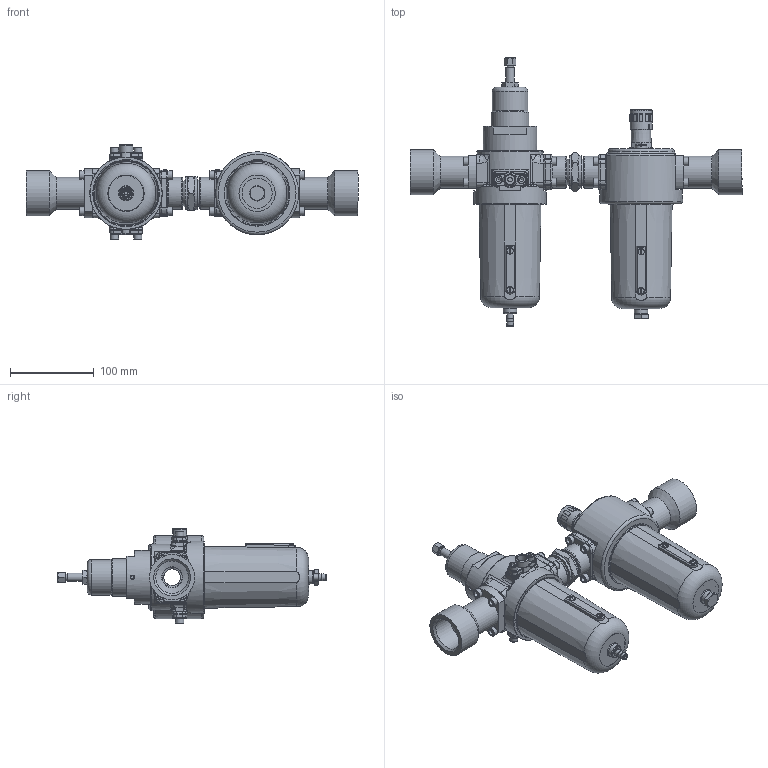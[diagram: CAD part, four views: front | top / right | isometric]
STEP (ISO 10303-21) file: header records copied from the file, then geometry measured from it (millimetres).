
FILE_DESCRIPTION(/* description */ (''),/* implementation_level */ '2;1');
FILE_NAME(/* name */ '210G2 1-14''''G.stp',/* time_stamp */ '2025-05-14T10:09:44+02:00',/* author */ ('MassimoRatti'),/* organization */ (''),/* preprocessor_version */ 'ST-DEVELOPER v20',/* originating_system */ 'Autodesk Inventor 2025',/* authorisation */ '');
FILE_SCHEMA (('AUTOMOTIVE_DESIGN { 1 0 10303 214 3 1 1 }'));
Length unit declared in the file: millimetre
Products named in the file (47): 210G2 1-14''G; C87002; P53003; OR 02014; P53003_1; P30017; C60002; P60001; P60002; M51201; P60009; P40015; OR 04159; OR 04159_1; OR 07075; OR 07063; OR 07032_2; P20606; P50010; P34120; 0DC10410; P34131; OR 08022; P37083; P43123; 0DN11400; P21066; P20638; P37083_1; P37131; 0DC10410_1; 0DC10410_2; 0DC10410_3; 0DC10410_4; 0DC10410_5; P37129; P50010_1; C60002_1; P60001_1; P60002_1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
Assembly tree (63 placements, depth 4):
  210G2 1-14''G
    C87002
      P53003
      OR 02014  x2
      P53003_1
      P30017
      C60002
        P60001
        P60002
      M51201
        P60009
        P40015
      OR 04159
      OR 04159_1
      OR 07075  x2
      OR 07063
      OR 07032_2
      P20606
      P50010
      P34120
      0DC10410  x8
      P34131
      OR 08022
      P37083
    P43123
    0DN11400
    P21066
    P20638
    P37083_1
    P37131
    0DC10410_1
    0DC10410_2
    0DC10410_5  x8
    0DC10410_3
    0DC10410_4
    P37129
    P50010_1
    C60002_1
      P60001_1
      P60002_1
    P53003_2  x2
    C55002
      P20186
      P20187
    0CBCBRR
    P37124
    P37124_1
Bounding box: 396.6 x 320.31 x 113.6 mm (x, y, z)
Volume: 737264.1 mm3; surface area: 368271 mm2
Topology: 59 solids, 59 shells, 1850 faces, 4629 edges, 2962 vertices
Faces by surface type: plane 793, cylinder 449, cone 264, torus 180, bspline 164
Full cylindrical faces by diameter (mm): 1 x2, 1.5 x8, 3 x1, 3.5 x1, 4 x1, 4.134 x5, 4.8 x1, 4.917 x20, 5 x8, 5.1 x6, 5.6 x1, 6 x21, 6.5 x20, 6.9 x4, 7 x5, 7.2 x1, 7.5 x6, 7.7 x6, 8 x2, 8.3 x1, 8.5 x1, 8.566 x2, 8.917 x1, 9.728 x1, 10 x22, 10.8 x2, 11.2 x2, 11.445 x1, 12 x2, 14 x1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
Entity records: 59136 total; most frequent: CARTESIAN_POINT 18676, ORIENTED_EDGE 8110, DIRECTION 8037, EDGE_CURVE 4055, AXIS2_PLACEMENT_3D 3191, VERTEX_POINT 2597, EDGE_LOOP 1882, LINE 1655
